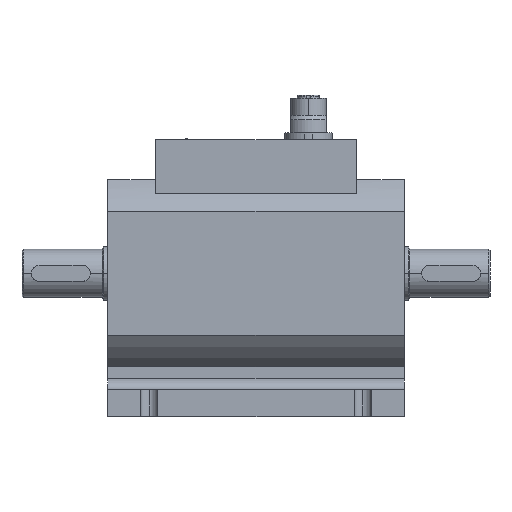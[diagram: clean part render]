
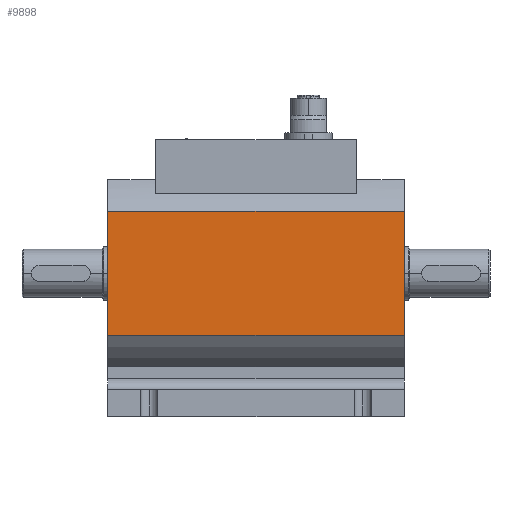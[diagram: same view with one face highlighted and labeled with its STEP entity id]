
A CAD part, top view. The second image highlights one B-rep face of the part: STEP entity #9898.
In plain terms, the highlighted planar face has unit normal (0, 0, 1).
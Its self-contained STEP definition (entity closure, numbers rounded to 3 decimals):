
#911 = CARTESIAN_POINT ( 'NONE',  ( 55.5, 23.126, 35. ) ) ;
#1058 = ORIENTED_EDGE ( 'NONE', *, *, #3534, .F. ) ;
#1976 = VECTOR ( 'NONE', #22303, 1000. ) ;
#3130 = ORIENTED_EDGE ( 'NONE', *, *, #10093, .T. ) ;
#3534 = EDGE_CURVE ( 'NONE', #13329, #16582, #25458, .T. ) ;
#3843 = VERTEX_POINT ( 'NONE', #7290 ) ;
#3925 = PLANE ( 'NONE',  #23782 ) ;
#4341 = DIRECTION ( 'NONE',  ( -1., 0., 0. ) ) ;
#4480 = CARTESIAN_POINT ( 'NONE',  ( 55.5, 23.126, 35. ) ) ;
#5346 = VECTOR ( 'NONE', #4341, 1000. ) ;
#5544 = EDGE_CURVE ( 'NONE', #3843, #16582, #14581, .T. ) ;
#7106 = VERTEX_POINT ( 'NONE', #23675 ) ;
#7290 = CARTESIAN_POINT ( 'NONE',  ( -55.5, 23.126, 35. ) ) ;
#8581 = DIRECTION ( 'NONE',  ( -1., 0., 0. ) ) ;
#9898 = ADVANCED_FACE ( 'NONE', ( #19263 ), #3925, .F. ) ;
#10093 = EDGE_CURVE ( 'NONE', #7106, #3843, #19410, .T. ) ;
#11087 = VECTOR ( 'NONE', #8581, 1000. ) ;
#11160 = VECTOR ( 'NONE', #12884, 1000. ) ;
#12884 = DIRECTION ( 'NONE',  ( 0., -1., 0. ) ) ;
#13329 = VERTEX_POINT ( 'NONE', #23399 ) ;
#13728 = LINE ( 'NONE', #911, #1976 ) ;
#14581 = LINE ( 'NONE', #25684, #11160 ) ;
#16582 = VERTEX_POINT ( 'NONE', #19602 ) ;
#16977 = ORIENTED_EDGE ( 'NONE', *, *, #26727, .F. ) ;
#19263 = FACE_OUTER_BOUND ( 'NONE', #24684, .T. ) ;
#19380 = ORIENTED_EDGE ( 'NONE', *, *, #5544, .T. ) ;
#19410 = LINE ( 'NONE', #4480, #5346 ) ;
#19602 = CARTESIAN_POINT ( 'NONE',  ( -55.5, -23.126, 35. ) ) ;
#21096 = DIRECTION ( 'NONE',  ( 0., 0., -1. ) ) ;
#22303 = DIRECTION ( 'NONE',  ( 0., -1., 0. ) ) ;
#23399 = CARTESIAN_POINT ( 'NONE',  ( 55.5, -23.126, 35. ) ) ;
#23675 = CARTESIAN_POINT ( 'NONE',  ( 55.5, 23.126, 35. ) ) ;
#23782 = AXIS2_PLACEMENT_3D ( 'NONE', #25584, #21096, #25173 ) ;
#24684 = EDGE_LOOP ( 'NONE', ( #19380, #1058, #16977, #3130 ) ) ;
#25173 = DIRECTION ( 'NONE',  ( 0., 1., 0. ) ) ;
#25458 = LINE ( 'NONE', #27295, #11087 ) ;
#25584 = CARTESIAN_POINT ( 'NONE',  ( 55.5, 23.126, 35. ) ) ;
#25684 = CARTESIAN_POINT ( 'NONE',  ( -55.5, 23.126, 35. ) ) ;
#26727 = EDGE_CURVE ( 'NONE', #7106, #13329, #13728, .T. ) ;
#27295 = CARTESIAN_POINT ( 'NONE',  ( 55.5, -23.126, 35. ) ) ;
